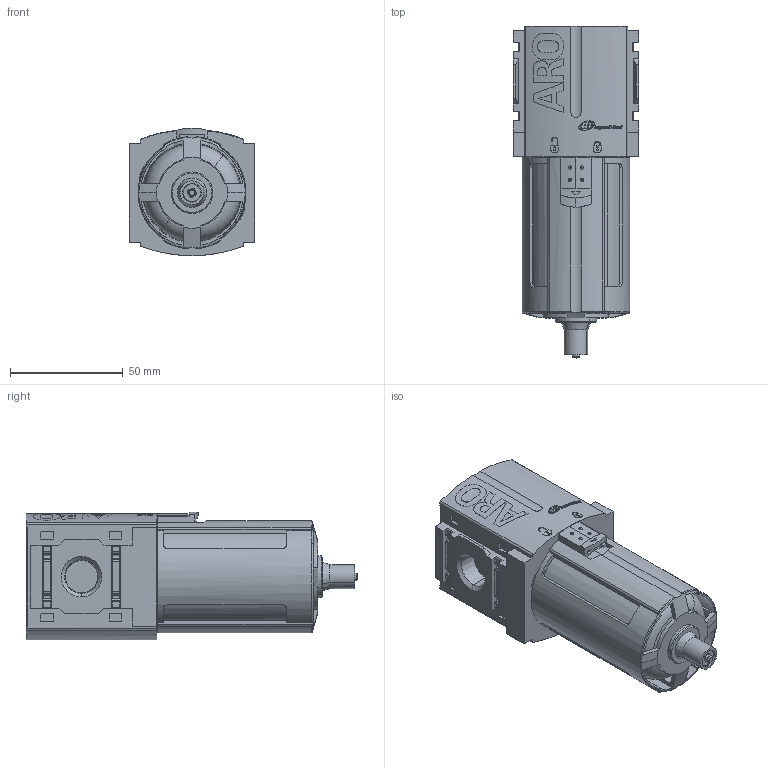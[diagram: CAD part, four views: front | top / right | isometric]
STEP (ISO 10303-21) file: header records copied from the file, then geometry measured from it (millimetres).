
FILE_DESCRIPTION(/* description */ (''),/* implementation_level */ '2;1');
FILE_NAME(/* name */ 'F352X1-X0X_01',/* time_stamp */ '2009-02-03T14:00:15-05:00',/* author */ (''),/* organization */ (''),/* preprocessor_version */ 'ST-DEVELOPER v9',/* originating_system */ 'UGS - NX 4.0',/* authorisation */ '');
FILE_SCHEMA (('AUTOMOTIVE_DESIGN { 1 0 10303 214 1 1 1 1 }'));
Products named in the file (1): szeeDA8Ai5wj
Bounding box: 56 x 147.51 x 56.65 mm (x, y, z)
Volume: 271462.1 mm3; surface area: 50010.7 mm2
Topology: 1 solids, 1 shells, 1154 faces, 3109 edges, 2029 vertices
Faces by surface type: plane 720, cylinder 275, extrusion 51, torus 44, bspline 32, cone 22, sphere 8, revolution 2
Full cylindrical faces by diameter (mm): 3.3 x1, 19 x1
Entity records: 53124 total; most frequent: CARTESIAN_POINT 17883, ORIENTED_EDGE 6216, DIRECTION 4682, EDGE_CURVE 3108, VERTEX_POINT 2030, VECTOR 1980, LINE 1929, AXIS2_PLACEMENT_3D 1350
